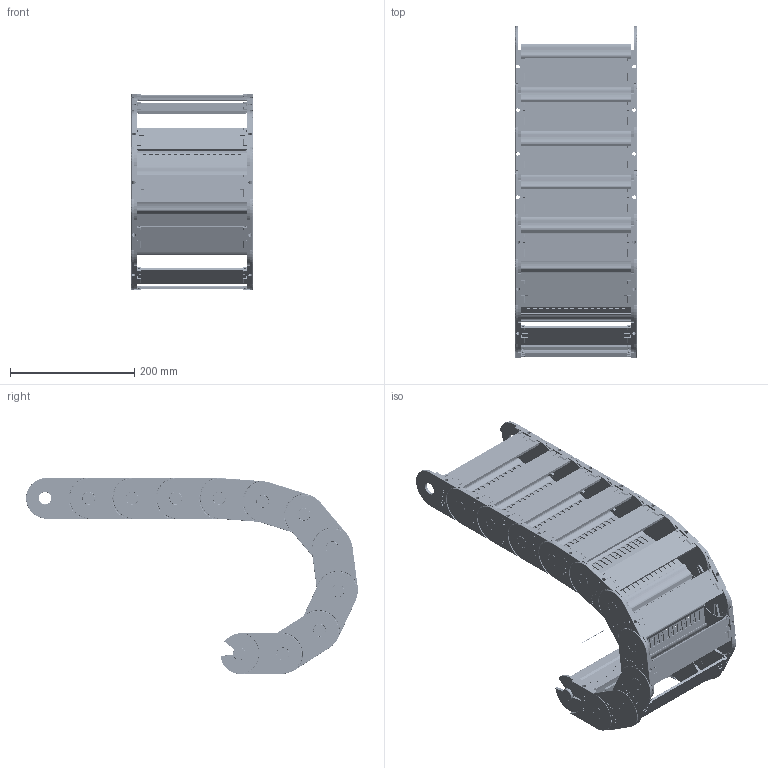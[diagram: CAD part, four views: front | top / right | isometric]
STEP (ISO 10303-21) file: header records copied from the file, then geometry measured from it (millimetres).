
FILE_DESCRIPTION((''),'2;1');
FILE_NAME('C:\Uebbing\PARAMETERKETTEN\KOLIBRI\Kol_65_195_1\Kol_65_195_1_R125.stp','2012-03-06T09:30:29',('Uebbing'),(''),'Autodesk Inventor 10','Autodesk Inventor 10','');
FILE_SCHEMA(('AUTOMOTIVE_DESIGN { 1 0 10303 214 1 1 1 1 }'));
Length unit declared in the file: millimetre
Products named in the file (5): KOLIBRI 65_195_1_PARAMETRISCH; Achse; Kol_65_195_1; Kol_65_195_5 Lasche; Kol_65_195_1 Klappsteg
Assembly tree (14 placements, depth 3):
  KOLIBRI 65_195_1_PARAMETRISCH
    Achse
    Kol_65_195_1  x11
      Kol_65_195_5 Lasche
      Kol_65_195_1 Klappsteg
Bounding box: 195 x 533.6 x 315 mm (x, y, z)
Volume: 1338306.3 mm3; surface area: 959529.3 mm2
Topology: 23 solids, 23 shells, 7362 faces, 20211 edges, 12983 vertices
Faces by surface type: plane 3093, bspline 2783, cylinder 1178, torus 242, cone 44, sphere 22
Full cylindrical faces by diameter (mm): 1 x1, 2.514 x11, 4 x33, 4.414 x11, 6 x11, 20 x22
Entity records: 22791 total; most frequent: CARTESIAN_POINT 6253, ORIENTED_EDGE 3608, DIRECTION 3041, EDGE_CURVE 1804, VECTOR 1343, LINE 1343, VERTEX_POINT 1171, AXIS2_PLACEMENT_3D 849
